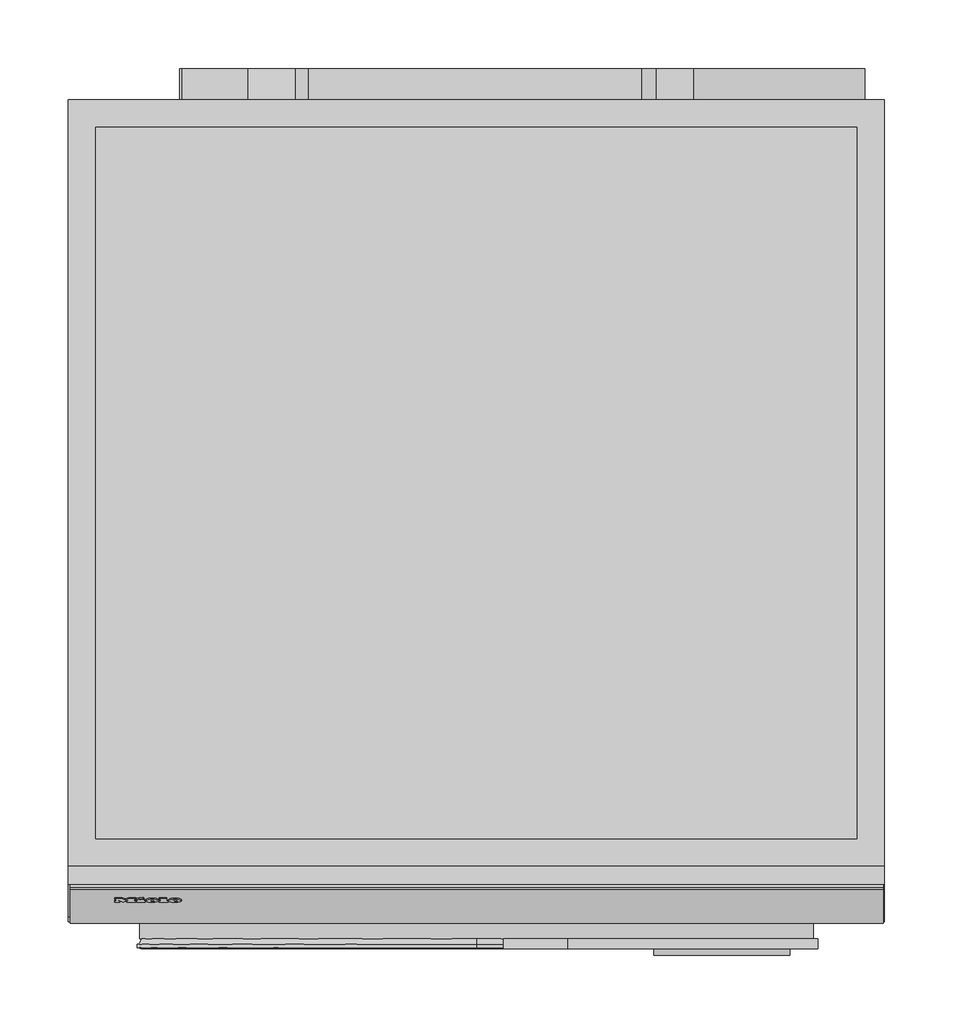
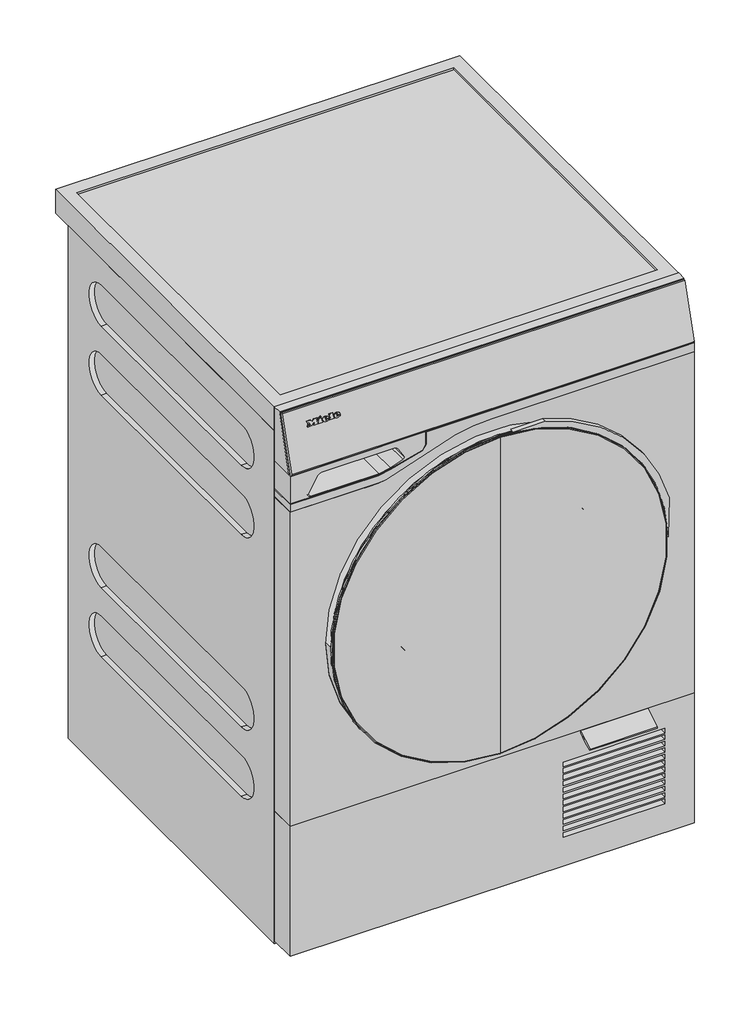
# Not in any storey: 1 proxy.
"""IFC4 building model written with IfcOpenShell, lengths in millimetres."""

from ifc_helpers import new_model, si_unit, origin, place, context, project, spatial, transform, mapped, element, save
from components import specialty_equipment_3a14cf9e, specialty_equipment_69af399f

model = new_model("IFC4")

# Units and contexts
model_context = context("Model", 3, world=origin())
ifc_project = project(units=[si_unit("LENGTHUNIT", "METRE", prefix="MILLI")], contexts=[model_context])

# Site, building
site = spatial("IfcSite", under=ifc_project)
building = spatial("IfcBuilding", under=site)

# Proxy
placement = place(None, origin())
specialty_equipment_shape = specialty_equipment_3a14cf9e(model_context)
specialty_equipment_2_shape = specialty_equipment_69af399f(model_context)
element("IfcBuildingElementProxy", 1, Name="12818230_CH_TQ0900WP_LW : 12Q09001_CH_12818230_TQ0900WP_LW", ObjectType="12818230_CH_TQ0900WP_LW : 12Q09001_CH_12818230_TQ0900WP_LW", at=placement, inside=building, context=model_context, shape_type="MappedRepresentation", body=[
    mapped(specialty_equipment_shape, transform((0.0, 0.0, 0.0), x_axis=(1.0, 0.0, 0.0), y_axis=(0.0, 1.0, 0.0), z_axis=(0.0, 0.0, 1.0))),
    mapped(specialty_equipment_2_shape, transform((0.0, 0.0, 0.0), x_axis=(1.0, 0.0, 0.0), y_axis=(0.0, 1.0, 0.0), z_axis=(0.0, 0.0, 1.0))),
])

save(model, "model.ifc")
